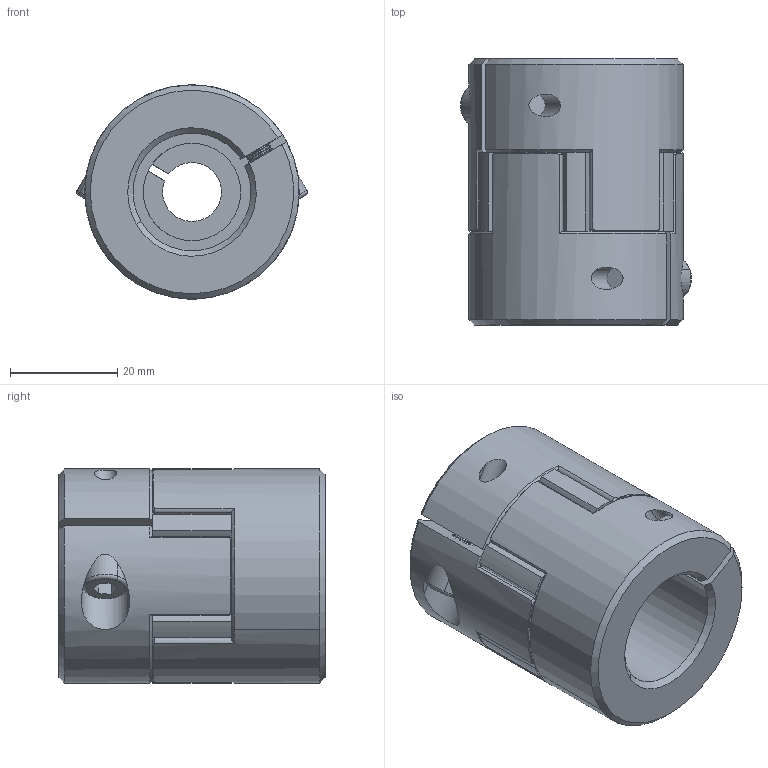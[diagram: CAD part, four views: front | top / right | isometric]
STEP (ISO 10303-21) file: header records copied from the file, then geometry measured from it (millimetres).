
FILE_DESCRIPTION (( 'STEP AP203' ), '1' );
FILE_NAME ('LF-B-D40L50-11-22.STEP', '2021-10-25T02:43:13', ( '' ), ( '' ), 'SwSTEP 2.0', 'SolidWorks 2018', '' );
FILE_SCHEMA (( 'CONFIG_CONTROL_DESIGN' ));
Length unit declared in the file: millimetre
Products named in the file (1): LF-B-D40L50-11-22
Bounding box: 43.11 x 49.7 x 40 mm (x, y, z)
Volume: 48674.6 mm3; surface area: 14737 mm2
Topology: 1 solids, 7 shells, 470 faces, 1113 edges, 660 vertices
Faces by surface type: cone 170, cylinder 169, plane 127, torus 4
Entity records: 13932 total; most frequent: CARTESIAN_POINT 2888, DIRECTION 2501, ORIENTED_EDGE 2218, EDGE_CURVE 1109, AXIS2_PLACEMENT_3D 1037, VERTEX_POINT 660, CIRCLE 566, EDGE_LOOP 487
